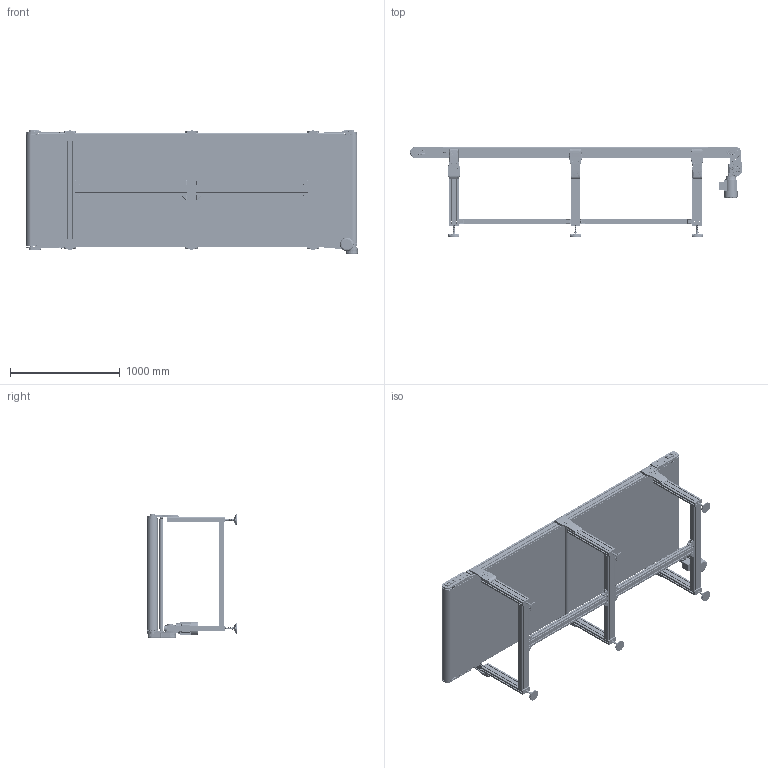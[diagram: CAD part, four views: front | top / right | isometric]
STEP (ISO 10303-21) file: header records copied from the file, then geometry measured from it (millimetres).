
FILE_DESCRIPTION (( 'STEP AP203' ), '1' );
FILE_NAME ('NASTRO_RETTILINEO_TAPPETO.step', '2026-05-28T11:59:06', ( 'Utente Windows' ), ( '' ), 'SwSTEP 2.0', 'SolidWorks 2024', '' );
FILE_SCHEMA (( 'CONFIG_CONTROL_DESIGN' ));
Length unit declared in the file: millimetre
Products named in the file (76): 2010.000.072; TAPPETO_STANDARD; 084.802.068; VITI TE UNI 5739_M5x10 UNI 5739; 084.302.000 DADI ALUSIC 13x13_084.302.004; ANGOLARE_43; 084.809.001; 2010.000.073; RONDELLE FASCIA LARGA UNI 6593_5.4x20 UNI 6593; GAMBE_D95_Default<A macchina>; 08UNI7435; 084.802.071; VITE_DADO_M5X12; FLANGIA_GAMBA_95_CON GIUNTI; 2010.000.074; BLOCCO_RINVIO_95_STANDARD_CON TENDINASTRO E CARTER; 084.301.000 VITI ALUSIC1_084.301.003; CHIAVETTE_A 6x6x50 UNI 6604-69; 084.810.010; 084.803.014; CUSCINETTI A SFERE_608-2RS; BLOCCO_TRAINO_95_STANDARD_CON TENDINASTRO E CARTER; 084.813.004; RULLO_95_Default<A macchina>; VITI TCEI UNI 5931_M4x25 UNI 5931; 30UNI7435; VITI TSEI UNI 5933_M4x12 UNI 5933; 084.305.003-1; 084.302.000 DADI ALUSIC 13x13-1_084.302.007; LAMIERA_STANDARD; 084.302.060; DADI ESAGONALI AUTOBLOCCANTI UNI 7473 INOX_08UNI7474-A2; 2010.000.072_L_Default<A macchina>; 084.802.067_Default<A macchina>; 084.810.003; 084.803.012; 084.810.005; 084.802.014; TELAIO_95_STANDARD_Default<A macchina>; VITE_RONDELLA_M8X20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
Assembly tree (238 placements, depth 4):
  NASTRO_RETTILINEO_TAPPETO
    TAPPETO_STANDARD
    TELAIO_95_STANDARD_Default<A macchina>
    LAMIERA_STANDARD  x2
    RULLO_95_Default<A macchina>  x2
    BLOCCO_PERNO_95_RINVIO  x3
      084.812.003
      084.810.003
      30UNI7435
    BLOCCO_TRAINO_95_STANDARD_CON TENDINASTRO E CARTER
      084.808.002_084.808.002
      084.302.060  x2
      084.802.019_084.802.019
      084.301.000 VITI ALUSIC_084.301.003  x6
      VITI TCEI UNI 5931_M4x25 UNI 5931  x2
      084.802.071
      084.802.068
      VITI TSEI UNI 5933_M4x12 UNI 5933  x2
    BLOCCO_PERNO_95_RINVIATO
      084.810.003
      084.813.002
      CHIAVETTE_A 8x7x25 UNI 6604-69
      CHIAVETTE_A 8x7x20 UNI 6604-69
      30UNI7435
    BLOCCO_TRAINO_95_RINVIATO_CATENA_44_SX_MOTORE A SINISTRA
      084.802.034_084.802.034
      084.808.003_084.808.003
      084.809.001
      084.803.014  x2
      084.803.012
      CHIAVETTE_A 6x6x50 UNI 6604-69
      084.810.005
        084.810.010
        084.810.004
        CUSCINETTI A SFERE_608-2RS  x2
        RONDELLE FASCIA LARGA UNI 6593_8.4x24 UNI 6593
        DADI ESAGONALI AUTOBLOCCANTI UNI 7473 INOX_08UNI7474-A2
        08UNI7435
      084.301.000 VITI ALUSIC_084.301.003  x6
      084.302.000 DADI ALUSIC 13x13_084.302.004  x6
      084.813.004
      RONDELLE FASCIA LARGA UNI 6593_5.4x20 UNI 6593
      VITI TE UNI 5739_M5x10 UNI 5739
      VITI TE UNI 5739_M8x20 UNI 5739  x4
      CHIAVETTE_A 8x7x25 UNI 6604-69
      VITI TE UNI 5739_M6x12 UNI 5739  x4
      084.802.067_Default<A macchina>
      VITI TCEI UNI 5931_M4x25 UNI 5931  x2
      084.832.001
    BLOCCO_RINVIO_95_STANDARD_CON TENDINASTRO E CARTER  x2
      084.808.002_084.808.002
      084.803.003
      084.302.060
      084.802.019_084.802.019
      VITI TSEI UNI 5933_M4x12 UNI 5933
      084.302.000 DADI ALUSIC 13x13-1_084.302.004
      084.301.000 VITI ALUSIC_084.301.003
      084.802.071
    GAMBE_D95_Default<A macchina>  x3
    FLANGIA_GAMBA_95_CON GIUNTI
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Bounding box: 3019.25 x 820 x 1124.5 mm (x, y, z)
Volume: 49690059.3 mm3; surface area: 39678497.2 mm2
Topology: 513 solids, 524 shells, 24629 faces, 63320 edges, 40361 vertices
Faces by surface type: plane 10141, cylinder 7464, bspline 3054, cone 2097, torus 1678, sphere 195
Entity records: 329425 total; most frequent: CARTESIAN_POINT 113602, ORIENTED_EDGE 43650, DIRECTION 41551, EDGE_CURVE 21825, AXIS2_PLACEMENT_3D 15269, VERTEX_POINT 13992, VECTOR 11013, LINE 11013
